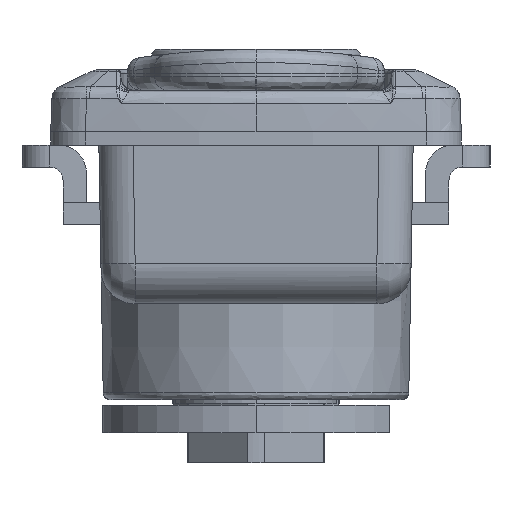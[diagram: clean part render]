
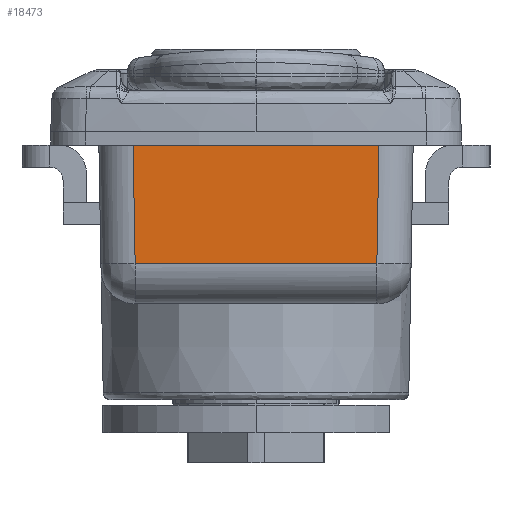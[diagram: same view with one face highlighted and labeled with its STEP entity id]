
A CAD part, left-side view. The second image highlights one B-rep face of the part: STEP entity #18473.
In plain terms, the highlighted planar face has unit normal (-1, 0, -0.018).
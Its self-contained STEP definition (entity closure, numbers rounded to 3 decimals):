
#3831 = VECTOR ( 'NONE', #7772, 1000. ) ;
#3898 = VECTOR ( 'NONE', #8290, 1000. ) ;
#3899 = VECTOR ( 'NONE', #8302, 1000. ) ;
#3906 = VECTOR ( 'NONE', #8317, 1000. ) ;
#3908 = VECTOR ( 'NONE', #8324, 1000. ) ;
#3910 = VECTOR ( 'NONE', #8327, 1000. ) ;
#3911 = VECTOR ( 'NONE', #8329, 1000. ) ;
#3913 = VECTOR ( 'NONE', #8332, 1000. ) ;
#7713 = LINE ( 'NONE', #7770, #3831 ) ;
#7770 = CARTESIAN_POINT ( 'NONE',  ( -82.331, 0., 11.848 ) ) ;
#7772 = DIRECTION ( 'NONE',  ( 0., 1., 0. ) ) ;
#8284 = LINE ( 'NONE', #8301, #3899 ) ;
#8288 = LINE ( 'NONE', #8289, #3898 ) ;
#8289 = CARTESIAN_POINT ( 'NONE',  ( -82.5, -9., 21.5 ) ) ;
#8290 = DIRECTION ( 'NONE',  ( 0.017, 0.017, -1. ) ) ;
#8301 = CARTESIAN_POINT ( 'NONE',  ( -82.526, -5.3, 23. ) ) ;
#8302 = DIRECTION ( 'NONE',  ( 0.017, -0.017, -1. ) ) ;
#8304 = LINE ( 'NONE', #8316, #3906 ) ;
#8308 = LINE ( 'NONE', #8322, #3908 ) ;
#8313 = LINE ( 'NONE', #8325, #3910 ) ;
#8316 = CARTESIAN_POINT ( 'NONE',  ( -82.5, 5.425, 21.5 ) ) ;
#8317 = DIRECTION ( 'NONE',  ( -0.017, -0.017, 1. ) ) ;
#8319 = LINE ( 'NONE', #8328, #3911 ) ;
#8322 = CARTESIAN_POINT ( 'NONE',  ( -82.5, 0., 21.5 ) ) ;
#8324 = DIRECTION ( 'NONE',  ( 0., 1., 0. ) ) ;
#8325 = CARTESIAN_POINT ( 'NONE',  ( -82.526, 0., 23. ) ) ;
#8327 = DIRECTION ( 'NONE',  ( 0., -1., 0. ) ) ;
#8328 = CARTESIAN_POINT ( 'NONE',  ( -82.5, 0., 21.5 ) ) ;
#8329 = DIRECTION ( 'NONE',  ( 0., 1., 0. ) ) ;
#8330 = LINE ( 'NONE', #8331, #3913 ) ;
#8331 = CARTESIAN_POINT ( 'NONE',  ( -82.497, 8.998, 21.343 ) ) ;
#8332 = DIRECTION ( 'NONE',  ( -0.017, 0.017, 1. ) ) ;
#12084 = AXIS2_PLACEMENT_3D ( 'NONE', #24267, #24268, #24269 ) ;
#18126 = EDGE_CURVE ( 'NONE', #20111, #20908, #7713, .T. ) ;
#18198 = EDGE_CURVE ( 'NONE', #20552, #20111, #8288, .T. ) ;
#18202 = EDGE_CURVE ( 'NONE', #20554, #20543, #8284, .T. ) ;
#18207 = EDGE_CURVE ( 'NONE', #20559, #20560, #8304, .T. ) ;
#18209 = EDGE_CURVE ( 'NONE', #20552, #20543, #8308, .T. ) ;
#18210 = EDGE_CURVE ( 'NONE', #20560, #20554, #8313, .T. ) ;
#18211 = EDGE_CURVE ( 'NONE', #20559, #20561, #8319, .T. ) ;
#18212 = EDGE_CURVE ( 'NONE', #20908, #20561, #8330, .T. ) ;
#18473 = ADVANCED_FACE ( 'NONE', ( #24257 ), #24242, .F. ) ;
#18761 = ORIENTED_EDGE ( 'NONE', *, *, #18198, .F. ) ;
#18762 = ORIENTED_EDGE ( 'NONE', *, *, #18209, .T. ) ;
#18763 = ORIENTED_EDGE ( 'NONE', *, *, #18202, .F. ) ;
#18764 = ORIENTED_EDGE ( 'NONE', *, *, #18210, .F. ) ;
#18765 = ORIENTED_EDGE ( 'NONE', *, *, #18207, .F. ) ;
#18766 = ORIENTED_EDGE ( 'NONE', *, *, #18211, .T. ) ;
#18767 = ORIENTED_EDGE ( 'NONE', *, *, #18212, .F. ) ;
#18768 = ORIENTED_EDGE ( 'NONE', *, *, #18126, .F. ) ;
#19022 = EDGE_LOOP ( 'NONE', ( #18761, #18762, #18763, #18764, #18765, #18766, #18767, #18768 ) ) ;
#20111 = VERTEX_POINT ( 'NONE', #28893 ) ;
#20543 = VERTEX_POINT ( 'NONE', #29325 ) ;
#20552 = VERTEX_POINT ( 'NONE', #29334 ) ;
#20554 = VERTEX_POINT ( 'NONE', #29336 ) ;
#20559 = VERTEX_POINT ( 'NONE', #29341 ) ;
#20560 = VERTEX_POINT ( 'NONE', #29342 ) ;
#20561 = VERTEX_POINT ( 'NONE', #29343 ) ;
#20908 = VERTEX_POINT ( 'NONE', #29906 ) ;
#24242 = PLANE ( 'NONE',  #12084 ) ;
#24257 = FACE_OUTER_BOUND ( 'NONE', #19022, .T. ) ;
#24267 = CARTESIAN_POINT ( 'NONE',  ( -82.5, 0., 21.5 ) ) ;
#24268 = DIRECTION ( 'NONE',  ( 1., 0., 0.017 ) ) ;
#24269 = DIRECTION ( 'NONE',  ( 0.017, 0., -1. ) ) ;
#28893 = CARTESIAN_POINT ( 'NONE',  ( -82.331, -8.832, 11.848 ) ) ;
#29325 = CARTESIAN_POINT ( 'NONE',  ( -82.5, -5.326, 21.5 ) ) ;
#29334 = CARTESIAN_POINT ( 'NONE',  ( -82.5, -9., 21.5 ) ) ;
#29336 = CARTESIAN_POINT ( 'NONE',  ( -82.526, -5.3, 23. ) ) ;
#29341 = CARTESIAN_POINT ( 'NONE',  ( -82.5, 5.425, 21.5 ) ) ;
#29342 = CARTESIAN_POINT ( 'NONE',  ( -82.526, 5.399, 23. ) ) ;
#29343 = CARTESIAN_POINT ( 'NONE',  ( -82.5, 9., 21.5 ) ) ;
#29906 = CARTESIAN_POINT ( 'NONE',  ( -82.331, 8.832, 11.848 ) ) ;
